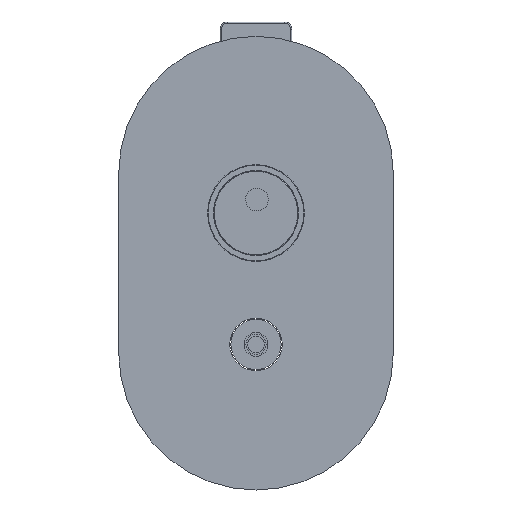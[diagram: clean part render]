
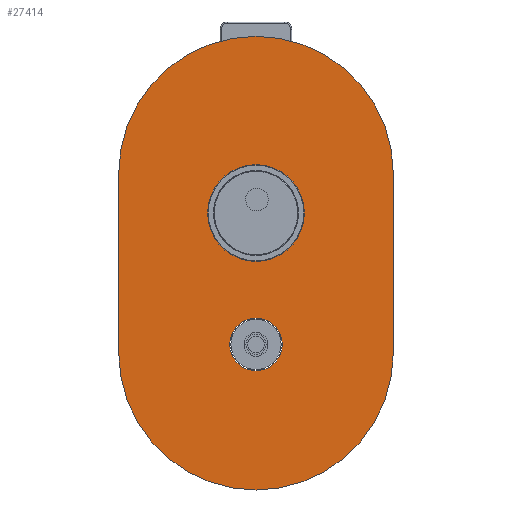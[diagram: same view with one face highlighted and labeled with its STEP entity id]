
A CAD part, front view. The second image highlights one B-rep face of the part: STEP entity #27414.
In plain terms, the highlighted planar face has unit normal (0, -1, 0).
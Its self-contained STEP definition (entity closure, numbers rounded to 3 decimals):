
#27157=DIRECTION('',(0.,0.,-1.));
#27158=VECTOR('',#27157,75.);
#27159=CARTESIAN_POINT('',(57.5,33.4,16.5));
#27160=LINE('',#27159,#27158);
#27161=CARTESIAN_POINT('',(0.,33.4,-58.5));
#27162=DIRECTION('',(0.,1.,0.));
#27163=DIRECTION('',(1.,0.,0.));
#27164=AXIS2_PLACEMENT_3D('',#27161,#27162,#27163);
#27166=DIRECTION('',(0.,0.,1.));
#27167=VECTOR('',#27166,75.);
#27168=CARTESIAN_POINT('',(-57.5,33.4,-58.5));
#27169=LINE('',#27168,#27167);
#27170=CARTESIAN_POINT('',(0.,33.4,16.5));
#27171=DIRECTION('',(0.,1.,0.));
#27172=DIRECTION('',(-1.,0.,0.));
#27173=AXIS2_PLACEMENT_3D('',#27170,#27171,#27172);
#27175=CARTESIAN_POINT('',(0.,33.4,0.));
#27176=DIRECTION('',(0.,1.,0.));
#27177=DIRECTION('',(-1.,0.,0.));
#27178=AXIS2_PLACEMENT_3D('',#27175,#27176,#27177);
#27180=CARTESIAN_POINT('',(0.,33.4,0.));
#27181=DIRECTION('',(0.,1.,0.));
#27182=DIRECTION('',(1.,0.,0.));
#27183=AXIS2_PLACEMENT_3D('',#27180,#27181,#27182);
#27185=CARTESIAN_POINT('',(0.,33.4,-55.));
#27186=DIRECTION('',(0.,1.,0.));
#27187=DIRECTION('',(-1.,0.,0.));
#27188=AXIS2_PLACEMENT_3D('',#27185,#27186,#27187);
#27190=CARTESIAN_POINT('',(0.,33.4,-55.));
#27191=DIRECTION('',(0.,1.,0.));
#27192=DIRECTION('',(1.,0.,0.));
#27193=AXIS2_PLACEMENT_3D('',#27190,#27191,#27192);
#27211=CARTESIAN_POINT('',(57.5,33.4,16.5));
#27212=CARTESIAN_POINT('',(57.5,33.4,-58.5));
#27213=VERTEX_POINT('',#27211);
#27214=VERTEX_POINT('',#27212);
#27215=CARTESIAN_POINT('',(-57.5,33.4,-58.5));
#27216=VERTEX_POINT('',#27215);
#27217=CARTESIAN_POINT('',(-57.5,33.4,16.5));
#27218=VERTEX_POINT('',#27217);
#27219=CARTESIAN_POINT('',(-20.25,33.4,0.));
#27220=CARTESIAN_POINT('',(20.25,33.4,0.));
#27221=VERTEX_POINT('',#27219);
#27222=VERTEX_POINT('',#27220);
#27223=CARTESIAN_POINT('',(-11.,33.4,-55.));
#27224=CARTESIAN_POINT('',(11.,33.4,-55.));
#27225=VERTEX_POINT('',#27223);
#27226=VERTEX_POINT('',#27224);
#27391=CARTESIAN_POINT('',(0.,33.4,-21.));
#27392=DIRECTION('',(0.,1.,0.));
#27393=DIRECTION('',(-1.,0.,0.));
#27394=AXIS2_PLACEMENT_3D('',#27391,#27392,#27393);
#27395=PLANE('',#27394);
#27396=ORIENTED_EDGE('',*,*,#27346,.T.);
#27397=ORIENTED_EDGE('',*,*,#27385,.T.);
#27398=ORIENTED_EDGE('',*,*,#27316,.T.);
#27399=ORIENTED_EDGE('',*,*,#27331,.T.);
#27400=EDGE_LOOP('',(#27396,#27397,#27398,#27399));
#27401=FACE_OUTER_BOUND('',#27400,.F.);
#27403=ORIENTED_EDGE('',*,*,#27402,.F.);
#27405=ORIENTED_EDGE('',*,*,#27404,.F.);
#27406=EDGE_LOOP('',(#27403,#27405));
#27407=FACE_BOUND('',#27406,.F.);
#27409=ORIENTED_EDGE('',*,*,#27408,.F.);
#27411=ORIENTED_EDGE('',*,*,#27410,.F.);
#27412=EDGE_LOOP('',(#27409,#27411));
#27413=FACE_BOUND('',#27412,.F.);
#27414=ADVANCED_FACE('',(#27401,#27407,#27413),#27395,.F.);
#27165=CIRCLE('',#27164,57.5);
#27174=CIRCLE('',#27173,57.5);
#27179=CIRCLE('',#27178,20.25);
#27184=CIRCLE('',#27183,20.25);
#27189=CIRCLE('',#27188,11.);
#27194=CIRCLE('',#27193,11.);
#27316=EDGE_CURVE('',#27216,#27218,#27169,.T.);
#27331=EDGE_CURVE('',#27218,#27213,#27174,.T.);
#27346=EDGE_CURVE('',#27213,#27214,#27160,.T.);
#27385=EDGE_CURVE('',#27214,#27216,#27165,.T.);
#27402=EDGE_CURVE('',#27221,#27222,#27179,.T.);
#27404=EDGE_CURVE('',#27222,#27221,#27184,.T.);
#27408=EDGE_CURVE('',#27225,#27226,#27189,.T.);
#27410=EDGE_CURVE('',#27226,#27225,#27194,.T.);
